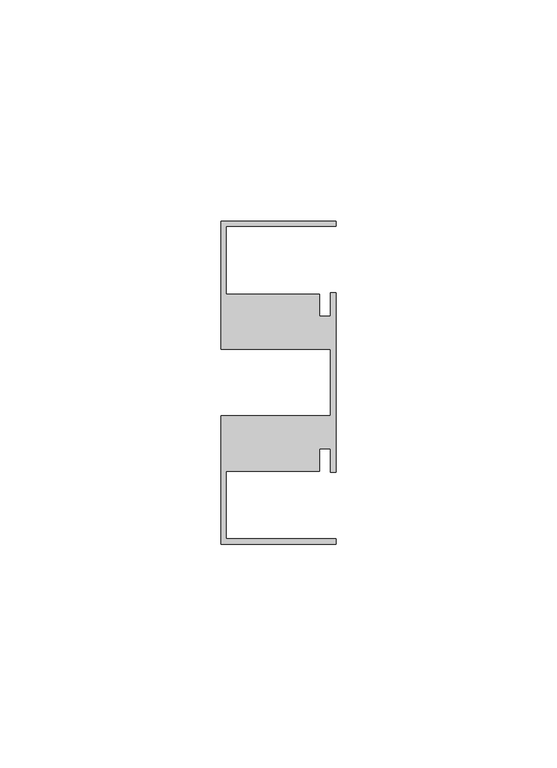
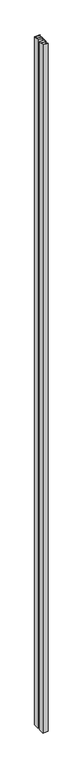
"""IFC4 building model written with IfcOpenShell, lengths in millimetres: member geometry, Прямоугольный импост : 9-AMG-1-Профиль 26Х73 Верх П."""

from ifc_helpers import new_model, si_unit, frame, origin, place, context, project, spatial, polyline, outline, extrude, source, transform, mapped, element, save


def member_348c47df(model_context):
    return source(origin(), model_context, "Body", "SweptSolid", [
        extrude(outline(polyline([(-26.0, 36.5), (0.0, 36.5), (0.0, 35.3), (-24.8, 35.3), (-24.8, 20.0), (-3.7, 20.0), (-3.7, 14.95), (-1.2, 14.95), (-1.2, 20.3007529), (0.0, 20.3007529), (0.0, -20.3007529), (-1.2, -20.3007529), (-1.2, -14.95), (-3.7, -14.95), (-3.7, -20.0), (-24.8, -20.0), (-24.8, -35.3), (0.0, -35.3), (0.0, -36.5), (-26.0, -36.5), (-26.0, -7.5116043), (-1.2, -7.5116043), (-1.2, 7.5116043), (-26.0, 7.5116043), (-26.0, 36.5)])), frame((0.0, 0.0, -3698.0), z_axis=(0.0, 0.0, 1.0), x_axis=(1.0, 0.0, 0.0)), (0.0, 0.0, 1.0), 3698.0),
    ])


if __name__ == "__main__":
    model = new_model("IFC4")
    model_context = context("Model", 3, world=origin())
    ifc_project = project(units=[si_unit("LENGTHUNIT", "METRE", prefix="MILLI")], contexts=[model_context])
    site = spatial("IfcSite", under=ifc_project)
    building = spatial("IfcBuilding", under=site)
    placement = place(None, origin())
    member_shape = member_348c47df(model_context)
    element("IfcMember", 1, ObjectType="Прямоугольный импост : 9-AMG-1-Профиль 26Х73 Верх П", at=placement, inside=building, context=model_context, shape_type="MappedRepresentation", body=[
        mapped(member_shape, transform((0.0, 0.0, 0.0), x_axis=(1.0, 0.0, 0.0), y_axis=(0.0, 1.0, 0.0), z_axis=(0.0, 0.0, 1.0))),
    ])
    save(model, "model.ifc")
